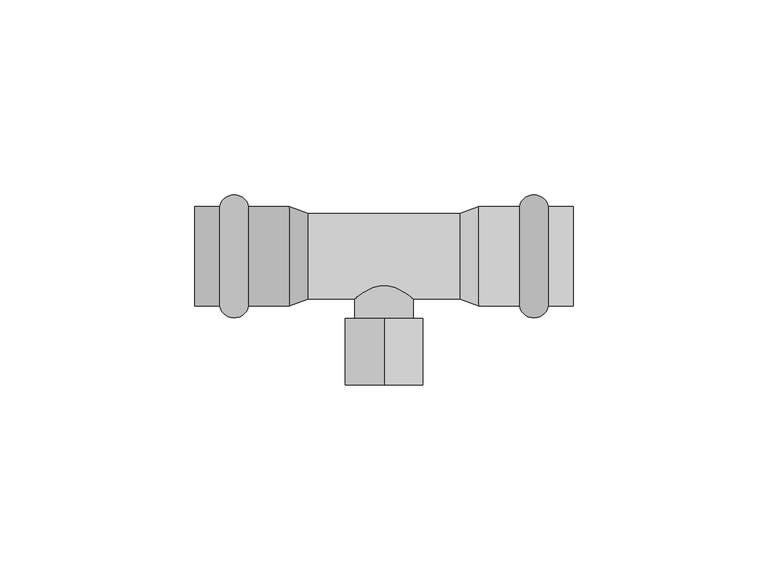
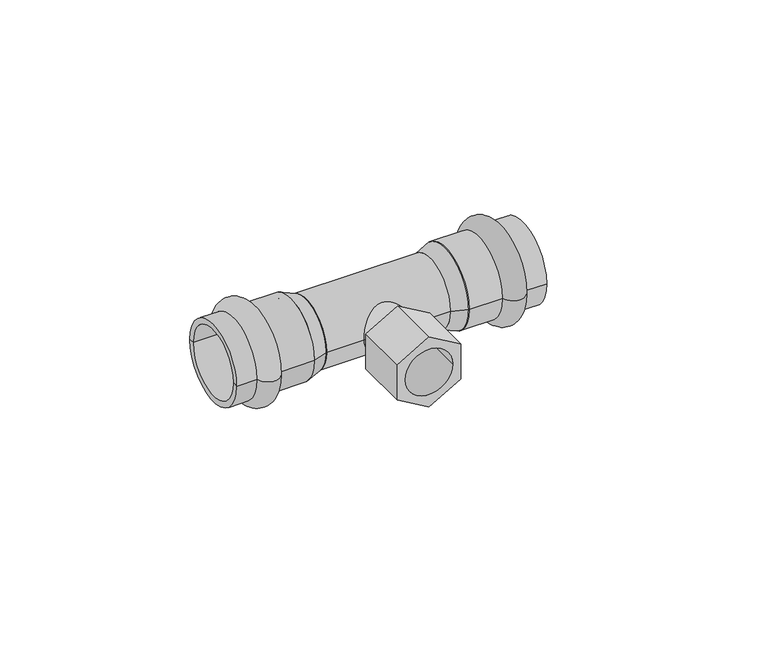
"""IFC4 building model written with IfcOpenShell, lengths in millimetres: pipe fitting geometry, VALTEC_VTi.932.I_Тройник с переходом на внутреннюю резьбу нержавеющая сталь : VTi.932.I."""

from ifc_helpers import new_model, si_unit, point, frame, origin, origin_2d, place, context, project, spatial, polyline, circle_curve, ellipse_curve, trimmed, segment, composite_curve, outline, extrude, source, transform, mapped, element, save
from ifc_brep_helpers import plane_surface, cylinder_surface, revolved_surface, advanced_brep


def pipe_fitting_1a850a50(model_context):
    return source(origin(), model_context, "Body", "SolidModel", [
        advanced_brep(
        [(42.1242346, 12.8, 0.0), (42.1242346, -12.8, 0.0), (34.7757654, -12.8, 0.0), (34.7757654, 12.8, 0.0), (48.5, 12.8, 0.0), (48.5, -12.8, 0.0), (48.5, 11.0, 0.0), (48.5, -11.0, 0.0), (24.25, 11.0, 0.0), (24.25, -11.0, 0.0), (24.25, 12.8, 0.0), (24.25, -12.8, 0.0)],
        [
            (0, 1, circle_curve(frame((42.1242346, 0.0, 0.0), z_axis=(-1.0, 0.0, 0.0), x_axis=(0.0, -1.0, 0.0)), 12.8)),
            (1, 2, circle_curve(frame((38.45, -12.05, 0.0), z_axis=(0.0, 0.0, -1.0), x_axis=(-1.0, 0.0, 0.0)), 3.75)),
            (2, 3, circle_curve(frame((34.7757654, 0.0, 0.0), z_axis=(1.0, 0.0, 0.0), x_axis=(0.0, -1.0, 0.0)), 12.8)),
            (3, 0, circle_curve(frame((38.45, 12.05, 0.0), z_axis=(0.0, 0.0, -1.0), x_axis=(-1.0, 0.0, 0.0)), 3.75)),
            (1, 0, circle_curve(frame((42.1242346, 0.0, 0.0), z_axis=(-1.0, 0.0, 0.0), x_axis=(0.0, -1.0, 0.0)), 12.8)),
            (3, 2, circle_curve(frame((34.7757654, 0.0, 0.0), z_axis=(1.0, 0.0, 0.0), x_axis=(0.0, -1.0, 0.0)), 12.8)),
            (4, 5, circle_curve(frame((48.5, 0.0, 0.0), z_axis=(-1.0, 0.0, 0.0), x_axis=(0.0, -1.0, 0.0)), 12.8)),
            (5, 1),
            (0, 4),
            (5, 4, circle_curve(frame((48.5, 0.0, 0.0), z_axis=(-1.0, 0.0, 0.0), x_axis=(0.0, -1.0, 0.0)), 12.8)),
            (6, 7, circle_curve(frame((48.5, 0.0, 0.0), z_axis=(-1.0, 0.0, 0.0), x_axis=(0.0, -1.0, 0.0)), 11.0)),
            (7, 5),
            (4, 6),
            (7, 6, circle_curve(frame((48.5, 0.0, 0.0), z_axis=(-1.0, 0.0, 0.0), x_axis=(0.0, -1.0, 0.0)), 11.0)),
            (8, 9, circle_curve(frame((24.25, 0.0, 0.0), z_axis=(-1.0, 0.0, 0.0), x_axis=(0.0, -1.0, 0.0)), 11.0)),
            (9, 7),
            (6, 8),
            (9, 8, circle_curve(frame((24.25, 0.0, 0.0), z_axis=(-1.0, 0.0, 0.0), x_axis=(0.0, -1.0, 0.0)), 11.0)),
            (10, 11, circle_curve(frame((24.25, 0.0, 0.0), z_axis=(-1.0, 0.0, 0.0), x_axis=(0.0, -1.0, 0.0)), 12.8)),
            (11, 9),
            (8, 10),
            (11, 10, circle_curve(frame((24.25, 0.0, 0.0), z_axis=(-1.0, 0.0, 0.0), x_axis=(0.0, -1.0, 0.0)), 12.8)),
            (2, 11),
            (10, 3),
        ],
        [
            revolved_surface(trimmed(ellipse_curve(frame((38.45, -12.05, 0.0), z_axis=(0.0, 0.0, 1.0), x_axis=(-1.0, 0.0, 0.0)), 3.75, 3.75), [point((34.7757654, -12.8, 0.0))], [point((42.1242346, -12.8, 0.0))], True, "CARTESIAN"), (52.0364426, 0.0, 0.0), (1.0, 0.0, 0.0)),
            cylinder_surface(frame((52.0364426, 0.0, 0.0), z_axis=(1.0, 0.0, 0.0), x_axis=(0.0, -1.0, 0.0)), 12.8),
            plane_surface(frame((48.5, 0.0, 0.0), z_axis=(1.0, 0.0, 0.0), x_axis=(0.0, -1.0, 0.0))),
            revolved_surface(polyline([(48.5, -11.0, 0.0), (24.25, -11.0, 0.0)]), (52.0364426, 0.0, 0.0), (1.0, 0.0, 0.0)),
            plane_surface(frame((24.25, 0.0, 0.0), z_axis=(-1.0, 0.0, 0.0), x_axis=(0.0, -1.0, 0.0))),
        ],
        [
            (0, [[1, 2, 3, 4]]),
            (0, [[5, -4, 6, -2]]),
            (1, [[7, 8, -1, 9]]),
            (1, [[10, -9, -5, -8]]),
            (2, [[11, 12, -7, 13]]),
            (2, [[14, -13, -10, -12]]),
            (3, [[15, 16, -11, 17]]),
            (3, [[18, -17, -14, -16]]),
            (4, [[19, 20, -15, 21]]),
            (4, [[22, -21, -18, -20]]),
            (1, [[-3, 23, -19, 24]]),
            (1, [[-6, -24, -22, -23]]),
        ],
    ),
        advanced_brep(
        [(-42.1242346, -12.8, 0.0), (-42.1242346, 12.8, 0.0), (-34.7757654, 12.8, 0.0), (-34.7757654, -12.8, 0.0), (-48.5, -12.8, 0.0), (-48.5, 12.8, 0.0), (-48.5, -11.0, 0.0), (-48.5, 11.0, 0.0), (-24.25, -11.0, 0.0), (-24.25, 11.0, 0.0), (-24.25, -12.8, 0.0), (-24.25, 12.8, 0.0)],
        [
            (0, 1, circle_curve(frame((-42.1242346, 0.0, 0.0), z_axis=(1.0, 0.0, 0.0), x_axis=(0.0, 1.0, 0.0)), 12.8)),
            (1, 2, circle_curve(frame((-38.45, 12.05, 0.0), z_axis=(0.0, 0.0, -1.0), x_axis=(1.0, 0.0, 0.0)), 3.75)),
            (2, 3, circle_curve(frame((-34.7757654, 0.0, 0.0), z_axis=(-1.0, 0.0, 0.0), x_axis=(0.0, 1.0, 0.0)), 12.8)),
            (3, 0, circle_curve(frame((-38.45, -12.05, 0.0), z_axis=(0.0, 0.0, -1.0), x_axis=(1.0, 0.0, 0.0)), 3.75)),
            (1, 0, circle_curve(frame((-42.1242346, 0.0, 0.0), z_axis=(1.0, 0.0, 0.0), x_axis=(0.0, 1.0, 0.0)), 12.8)),
            (3, 2, circle_curve(frame((-34.7757654, 0.0, 0.0), z_axis=(-1.0, 0.0, 0.0), x_axis=(0.0, 1.0, 0.0)), 12.8)),
            (4, 5, circle_curve(frame((-48.5, 0.0, 0.0), z_axis=(1.0, 0.0, 0.0), x_axis=(0.0, 1.0, 0.0)), 12.8)),
            (5, 1),
            (0, 4),
            (5, 4, circle_curve(frame((-48.5, 0.0, 0.0), z_axis=(1.0, 0.0, 0.0), x_axis=(0.0, 1.0, 0.0)), 12.8)),
            (6, 7, circle_curve(frame((-48.5, 0.0, 0.0), z_axis=(1.0, 0.0, 0.0), x_axis=(0.0, 1.0, 0.0)), 11.0)),
            (7, 5),
            (4, 6),
            (7, 6, circle_curve(frame((-48.5, 0.0, 0.0), z_axis=(1.0, 0.0, 0.0), x_axis=(0.0, 1.0, 0.0)), 11.0)),
            (8, 9, circle_curve(frame((-24.25, 0.0, 0.0), z_axis=(1.0, 0.0, 0.0), x_axis=(0.0, 1.0, 0.0)), 11.0)),
            (9, 7),
            (6, 8),
            (9, 8, circle_curve(frame((-24.25, 0.0, 0.0), z_axis=(1.0, 0.0, 0.0), x_axis=(0.0, 1.0, 0.0)), 11.0)),
            (10, 11, circle_curve(frame((-24.25, 0.0, 0.0), z_axis=(1.0, 0.0, 0.0), x_axis=(0.0, 1.0, 0.0)), 12.8)),
            (11, 9),
            (8, 10),
            (11, 10, circle_curve(frame((-24.25, 0.0, 0.0), z_axis=(1.0, 0.0, 0.0), x_axis=(0.0, 1.0, 0.0)), 12.8)),
            (2, 11),
            (10, 3),
        ],
        [
            revolved_surface(trimmed(ellipse_curve(frame((-38.45, 12.05, 0.0), z_axis=(0.0, 0.0, 1.0), x_axis=(1.0, 0.0, 0.0)), 3.75, 3.75), [point((-34.7757654, 12.8, 0.0))], [point((-42.1242346, 12.8, 0.0))], True, "CARTESIAN"), (-52.0364426, 0.0, 0.0), (-1.0, 0.0, 0.0)),
            cylinder_surface(frame((-52.0364426, 0.0, 0.0), z_axis=(-1.0, 0.0, 0.0), x_axis=(0.0, 1.0, 0.0)), 12.8),
            plane_surface(frame((-48.5, 0.0, 0.0), z_axis=(-1.0, 0.0, 0.0), x_axis=(0.0, 1.0, 0.0))),
            revolved_surface(polyline([(-48.5, 11.0, 0.0), (-24.25, 11.0, 0.0)]), (-52.0364426, 0.0, 0.0), (-1.0, 0.0, 0.0)),
            plane_surface(frame((-24.25, 0.0, 0.0), z_axis=(1.0, 0.0, 0.0), x_axis=(0.0, 1.0, 0.0))),
        ],
        [
            (0, [[1, 2, 3, 4]]),
            (0, [[5, -4, 6, -2]]),
            (1, [[7, 8, -1, 9]]),
            (1, [[10, -9, -5, -8]]),
            (2, [[11, 12, -7, 13]]),
            (2, [[14, -13, -10, -12]]),
            (3, [[15, 16, -11, 17]]),
            (3, [[18, -17, -14, -16]]),
            (4, [[19, 20, -15, 21]]),
            (4, [[22, -21, -18, -20]]),
            (1, [[-3, 23, -19, 24]]),
            (1, [[-6, -24, -22, -23]]),
        ],
    ),
        extrude(outline(polyline([(11.5470054, 0.0), (5.7735027, -10.0), (-5.7735027, -10.0), (-11.5470054, 0.0), (-5.7735027, 10.0), (5.7735027, 10.0), (11.5470054, 0.0)]), holes=[composite_curve([segment(trimmed(circle_curve(origin_2d(), 7.5), [point((0.0, -7.5))], [point((0.0, 7.5))], True, "CARTESIAN"), True, "CONTINUOUS"), segment(trimmed(circle_curve(origin_2d(), 7.5), [point((0.0, 7.5))], [point((0.0, -7.5))], True, "CARTESIAN"), True, "CONTINUOUS")], self_intersect=False)]), frame((0.0, -33.0, 0.0), z_axis=(0.0, 1.0, 0.0), x_axis=(0.0, 0.0, 1.0)), (0.0, 0.0, 1.0), 17.0),
        extrude(outline(composite_curve([segment(trimmed(circle_curve(origin_2d(), 7.5), [point((0.0, -7.5))], [point((0.0, 7.5))], False, "CARTESIAN"), True, "CONTINUOUS"), segment(trimmed(circle_curve(origin_2d(), 7.5), [point((0.0, 7.5))], [point((0.0, -7.5))], False, "CARTESIAN"), True, "CONTINUOUS")], self_intersect=False)), frame((0.0, -16.0, 0.0), z_axis=(0.0, 1.0, 0.0), x_axis=(0.0, 0.0, 1.0)), (0.0, 0.0, 1.0), 16.0),
        extrude(outline(composite_curve([segment(trimmed(circle_curve(origin_2d(), 11.0), [point((-11.0, 0.0))], [point((11.0, 0.0))], False, "CARTESIAN"), True, "CONTINUOUS"), segment(trimmed(circle_curve(origin_2d(), 11.0), [point((11.0, 0.0))], [point((-11.0, 0.0))], False, "CARTESIAN"), True, "CONTINUOUS")], self_intersect=False)), frame((-19.4, 0.0, 0.0), z_axis=(1.0, 0.0, 0.0), x_axis=(0.0, 1.0, 0.0)), (0.0, 0.0, 1.0), 38.8),
        advanced_brep(
        [(24.25, -12.8, 0.0), (24.25, 12.8, 0.0), (19.4, -11.0, 0.0), (19.4, 11.0, 0.0)],
        [
            (0, 1, circle_curve(frame((24.25, 0.0, 0.0), z_axis=(1.0, 0.0, 0.0), x_axis=(0.0, -1.0, 0.0)), 12.8)),
            (1, 0, circle_curve(frame((24.25, 0.0, 0.0), z_axis=(1.0, 0.0, 0.0), x_axis=(0.0, 1.0, 0.0)), 12.8)),
            (2, 3, circle_curve(frame((19.4, 0.0, 0.0), z_axis=(-1.0, 0.0, 0.0), x_axis=(0.0, 1.0, 0.0)), 11.0)),
            (3, 2, circle_curve(frame((19.4, 0.0, 0.0), z_axis=(-1.0, 0.0, 0.0), x_axis=(0.0, -1.0, 0.0)), 11.0)),
            (3, 1),
            (0, 2),
        ],
        [
            plane_surface(frame((24.25, 0.0, 0.0), z_axis=(1.0, 0.0, 0.0), x_axis=(0.0, 0.0, 1.0))),
            plane_surface(frame((19.4, 0.0, 0.0), z_axis=(-1.0, 0.0, 0.0), x_axis=(0.0, 0.0, 1.0))),
            revolved_surface(polyline([(19.4, 11.000000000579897, 0.0), (24.25, 12.8, 0.0)]), (-10.2388889, 0.0, 0.0), (1.0, 0.0, 0.0)),
            revolved_surface(polyline([(19.4, -11.000000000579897, 0.0), (24.25, -12.8, 0.0)]), (-10.2388889, 0.0, 0.0), (1.0, 0.0, 0.0)),
        ],
        [
            (0, [[1, 2]]),
            (1, [[3, 4]]),
            (2, [[-4, 5, -1, 6]]),
            (3, [[-3, -6, -2, -5]]),
        ],
    ),
        advanced_brep(
        [(-24.25, -12.8, 0.0), (-24.25, 12.8, 0.0), (-19.4, -11.0, 0.0), (-19.4, 11.0, 0.0)],
        [
            (0, 1, circle_curve(frame((-24.25, 0.0, 0.0), z_axis=(-1.0, 0.0, 0.0), x_axis=(0.0, -1.0, 0.0)), 12.8)),
            (1, 0, circle_curve(frame((-24.25, 0.0, 0.0), z_axis=(-1.0, 0.0, 0.0), x_axis=(0.0, 1.0, 0.0)), 12.8)),
            (2, 3, circle_curve(frame((-19.4, 0.0, 0.0), z_axis=(1.0, 0.0, 0.0), x_axis=(0.0, 1.0, 0.0)), 11.0)),
            (3, 2, circle_curve(frame((-19.4, 0.0, 0.0), z_axis=(1.0, 0.0, 0.0), x_axis=(0.0, -1.0, 0.0)), 11.0)),
            (2, 0),
            (1, 3),
        ],
        [
            plane_surface(frame((-24.25, 0.0, 0.0), z_axis=(-1.0, 0.0, 0.0), x_axis=(0.0, 0.0, -1.0))),
            plane_surface(frame((-19.4, 0.0, 0.0), z_axis=(1.0, 0.0, 0.0), x_axis=(0.0, 0.0, -1.0))),
            revolved_surface(polyline([(-19.4, -11.000000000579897, 0.0), (-24.25, -12.8, 0.0)]), (10.2388889, 0.0, 0.0), (-1.0, 0.0, 0.0)),
            revolved_surface(polyline([(-19.4, 11.000000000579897, 0.0), (-24.25, 12.8, 0.0)]), (10.2388889, 0.0, 0.0), (-1.0, 0.0, 0.0)),
        ],
        [
            (0, [[1, 2]]),
            (1, [[3, 4]]),
            (2, [[-3, 5, -2, 6]]),
            (3, [[-4, -6, -1, -5]]),
        ],
    ),
    ])


if __name__ == "__main__":
    model = new_model("IFC4")
    model_context = context("Model", 3, world=origin())
    ifc_project = project(units=[si_unit("LENGTHUNIT", "METRE", prefix="MILLI")], contexts=[model_context])
    site = spatial("IfcSite", under=ifc_project)
    building = spatial("IfcBuilding", under=site)
    placement = place(None, origin())
    pipe_fitting_shape = pipe_fitting_1a850a50(model_context)
    element("IfcPipeFitting", 1, ObjectType="VALTEC_VTi.932.I_Тройник с переходом на внутреннюю резьбу нержавеющая сталь : VTi.932.I", at=placement, inside=building, context=model_context, shape_type="MappedRepresentation", body=[
        mapped(pipe_fitting_shape, transform((0.0, 0.0, 0.0), x_axis=(1.0, 0.0, 0.0), y_axis=(0.0, 1.0, 0.0), z_axis=(0.0, 0.0, 1.0))),
    ])
    save(model, "model.ifc")
